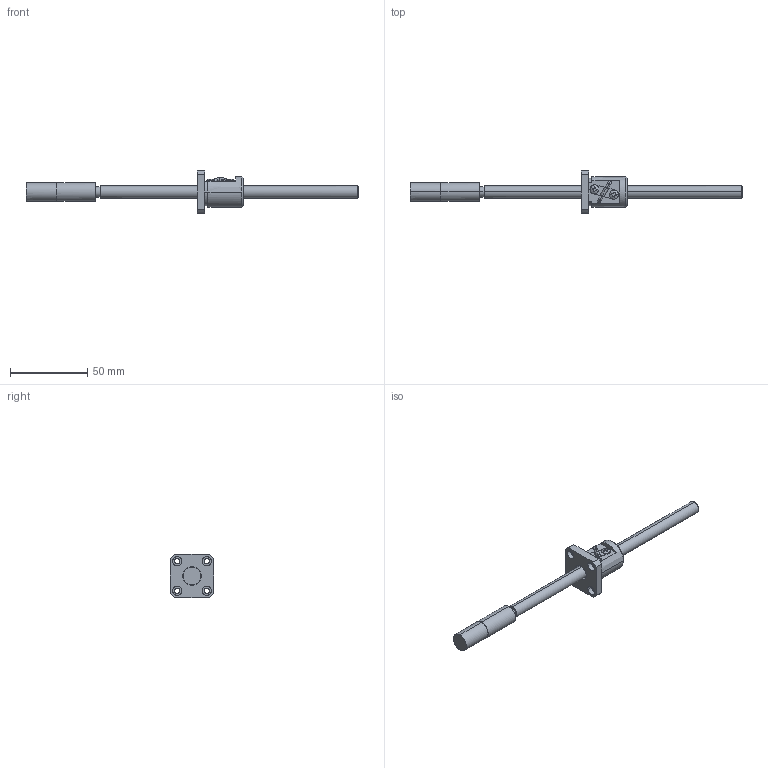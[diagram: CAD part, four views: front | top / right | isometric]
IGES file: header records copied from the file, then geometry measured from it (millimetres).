
Global section: file name: No Iges File Name specified; native system: AutoDesk Inventor R10; preprocessor: AutoDesk Inventor Iges Exporter R10; author: No Author specified; organization: No Organization specified; date: 20101224.135719; units: millimetre
Bounding box: 215 x 28 x 28 mm (x, y, z)
Surface area: 11054.7 mm2 (no closed solid volume)
Topology: 0 solids, 0 shells, 134 faces, 968 edges, 968 vertices
Faces by surface type: bspline 134
